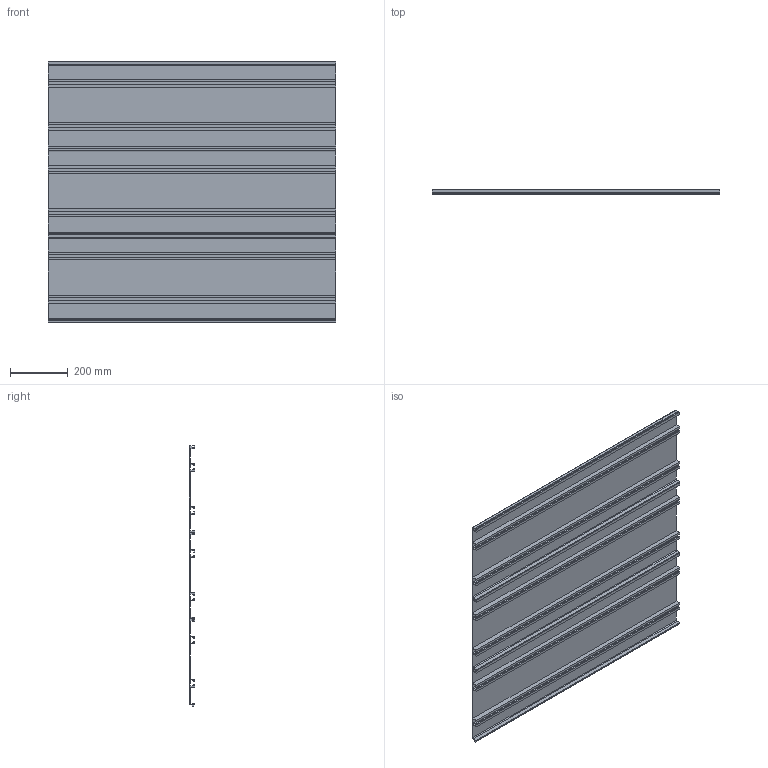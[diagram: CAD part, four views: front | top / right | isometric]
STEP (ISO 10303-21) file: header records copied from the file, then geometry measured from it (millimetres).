
FILE_DESCRIPTION(('FreeCAD Model'),'2;1');
FILE_NAME('Open CASCADE Shape Model','2026-09-24T21:28:04',('Author'),( ''),'Open CASCADE STEP processor 7.8','FreeCAD','Unknown');
FILE_SCHEMA(('AUTOMOTIVE_DESIGN { 1 0 10303 214 1 1 1 1 }'));
Length unit declared in the file: millimetre
Products named in the file (4): SP300Board; SP300_1; SP300_2; SP300_3
Assembly tree (3 placements, depth 2):
  SP300Board
    SP300_1
    SP300_2
    SP300_3
Bounding box: 1000 x 19 x 905.5 mm (x, y, z)
Volume: 4377221.7 mm3; surface area: 2555289.8 mm2
Topology: 3 solids, 3 shells, 147 faces, 423 edges, 282 vertices
Faces by surface type: plane 126, cylinder 21
Entity records: 4819 total; most frequent: CARTESIAN_POINT 856, ORIENTED_EDGE 846, DIRECTION 767, EDGE_CURVE 423, LINE 381, VECTOR 381, VERTEX_POINT 282, AXIS2_PLACEMENT_3D 193
